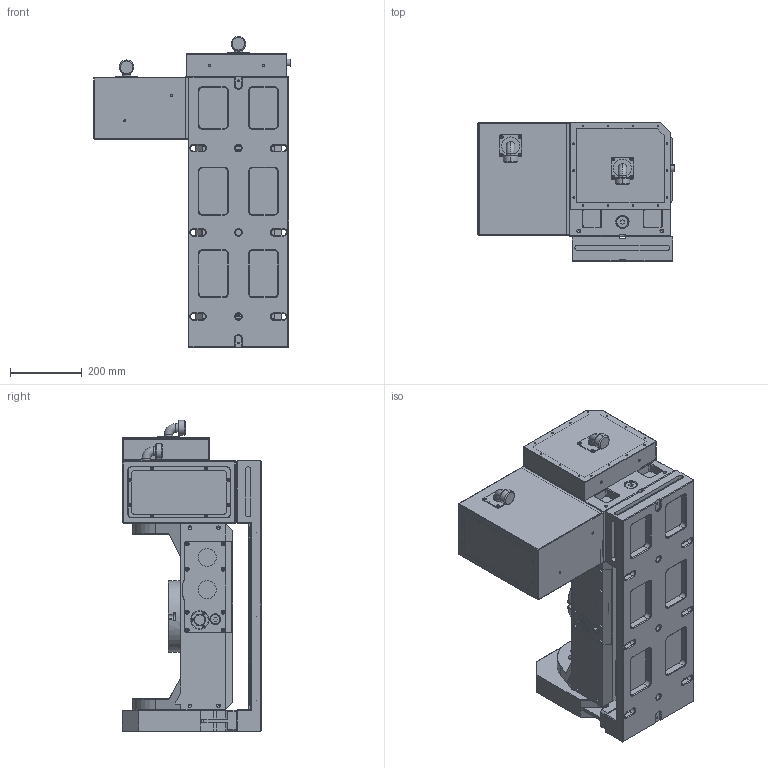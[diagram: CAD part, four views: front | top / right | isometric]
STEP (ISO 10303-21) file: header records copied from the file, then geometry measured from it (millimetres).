
FILE_DESCRIPTION (( 'STEP AP203' ), '1' );
FILE_NAME ('WDS-RT200CL 喜渡俋夤芞 REV.01.STEP', '2022-09-19T06:58:27', ( '' ), ( '' ), 'SwSTEP 2.0', 'SolidWorks 2021', '' );
FILE_SCHEMA (( 'CONFIG_CONTROL_DESIGN' ));
Length unit declared in the file: millimetre
Products named in the file (1): WDS-RT200CL 喜渡俋夤芞 REV.01
Bounding box: 549 x 388 x 868.5 mm (x, y, z)
Volume: 46899139 mm3; surface area: 3679472 mm2
Topology: 19 solids, 34 shells, 3089 faces, 7349 edges, 4460 vertices
Faces by surface type: cylinder 1389, plane 968, cone 623, torus 101, bspline 8
Entity records: 89792 total; most frequent: DIRECTION 16529, CARTESIAN_POINT 16357, ORIENTED_EDGE 14206, EDGE_CURVE 7103, AXIS2_PLACEMENT_3D 6460, VERTEX_POINT 4460, EDGE_LOOP 3831, LINE 3609
